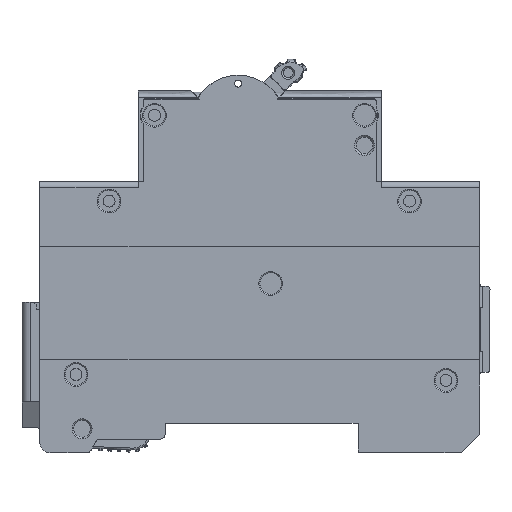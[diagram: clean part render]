
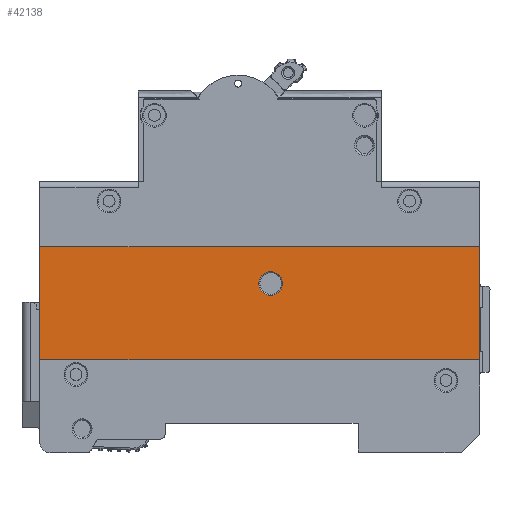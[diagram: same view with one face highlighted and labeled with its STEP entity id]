
A CAD part, left-side view. The second image highlights one B-rep face of the part: STEP entity #42138.
In plain terms, the highlighted planar face has unit normal (-1, 0, 0).
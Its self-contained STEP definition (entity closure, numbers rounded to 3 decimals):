
#1184 = EDGE_CURVE ( 'NONE', #67966, #63358, #28333, .T. ) ;
#2735 = ORIENTED_EDGE ( 'NONE', *, *, #35240, .T. ) ;
#7850 = LINE ( 'NONE', #12752, #33200 ) ;
#8147 = ORIENTED_EDGE ( 'NONE', *, *, #1184, .F. ) ;
#8216 = AXIS2_PLACEMENT_3D ( 'NONE', #57475, #27806, #10495 ) ;
#9171 = EDGE_CURVE ( 'NONE', #67966, #10151, #45954, .T. ) ;
#10151 = VERTEX_POINT ( 'NONE', #50501 ) ;
#10296 = DIRECTION ( 'NONE',  ( 0., 0., -1. ) ) ;
#10495 = DIRECTION ( 'NONE',  ( 0., 0., -1. ) ) ;
#11623 = VECTOR ( 'NONE', #68100, 1000. ) ;
#12752 = CARTESIAN_POINT ( 'NONE',  ( -0.8, 81.5, 10.92 ) ) ;
#13655 = AXIS2_PLACEMENT_3D ( 'NONE', #50691, #61941, #28120 ) ;
#19202 = VERTEX_POINT ( 'NONE', #43617 ) ;
#22573 = ORIENTED_EDGE ( 'NONE', *, *, #60540, .T. ) ;
#23667 = DIRECTION ( 'NONE',  ( 0., 0., -1. ) ) ;
#23730 = DIRECTION ( 'NONE',  ( 0., 1., 0. ) ) ;
#24483 = CARTESIAN_POINT ( 'NONE',  ( -0.8, 0.25, -12.005 ) ) ;
#27209 = DIRECTION ( 'NONE',  ( 0., 1., 0. ) ) ;
#27742 = PLANE ( 'NONE',  #13655 ) ;
#27806 = DIRECTION ( 'NONE',  ( 1., 0., 0. ) ) ;
#28120 = DIRECTION ( 'NONE',  ( 0., 0., 1. ) ) ;
#28333 = LINE ( 'NONE', #39635, #31565 ) ;
#29281 = AXIS2_PLACEMENT_3D ( 'NONE', #37060, #62151, #10296 ) ;
#29861 = CIRCLE ( 'NONE', #8216, 2.2 ) ;
#31565 = VECTOR ( 'NONE', #27209, 1000. ) ;
#33200 = VECTOR ( 'NONE', #23667, 1000. ) ;
#35240 = EDGE_CURVE ( 'NONE', #19202, #67490, #52078, .T. ) ;
#35412 = LINE ( 'NONE', #24483, #41043 ) ;
#37060 = CARTESIAN_POINT ( 'NONE',  ( -0.8, 38.723, -18.864 ) ) ;
#39060 = FACE_OUTER_BOUND ( 'NONE', #46760, .T. ) ;
#39635 = CARTESIAN_POINT ( 'NONE',  ( -0.8, 79.05, -33.005 ) ) ;
#41043 = VECTOR ( 'NONE', #23730, 1000. ) ;
#41139 = CARTESIAN_POINT ( 'NONE',  ( -0.8, 36.523, -18.864 ) ) ;
#42138 = ADVANCED_FACE ( 'NONE', ( #44679, #39060 ), #27742, .F. ) ;
#43617 = CARTESIAN_POINT ( 'NONE',  ( -0.8, 40.923, -18.864 ) ) ;
#44679 = FACE_BOUND ( 'NONE', #64229, .T. ) ;
#45209 = EDGE_CURVE ( 'NONE', #73608, #63358, #7850, .T. ) ;
#45954 = LINE ( 'NONE', #62851, #11623 ) ;
#46760 = EDGE_LOOP ( 'NONE', ( #54175, #8147, #52726, #73276 ) ) ;
#50501 = CARTESIAN_POINT ( 'NONE',  ( -0.8, 0., -12.005 ) ) ;
#50691 = CARTESIAN_POINT ( 'NONE',  ( -0.8, 69.75, -13.08 ) ) ;
#52078 = CIRCLE ( 'NONE', #29281, 2.2 ) ;
#52726 = ORIENTED_EDGE ( 'NONE', *, *, #9171, .T. ) ;
#54175 = ORIENTED_EDGE ( 'NONE', *, *, #45209, .T. ) ;
#57475 = CARTESIAN_POINT ( 'NONE',  ( -0.8, 38.723, -18.864 ) ) ;
#59780 = CARTESIAN_POINT ( 'NONE',  ( -0.8, 81.5, -12.005 ) ) ;
#60540 = EDGE_CURVE ( 'NONE', #67490, #19202, #29861, .T. ) ;
#61941 = DIRECTION ( 'NONE',  ( 1., 0., 0. ) ) ;
#62151 = DIRECTION ( 'NONE',  ( 1., 0., 0. ) ) ;
#62851 = CARTESIAN_POINT ( 'NONE',  ( -0.8, 0., 10.92 ) ) ;
#63358 = VERTEX_POINT ( 'NONE', #65975 ) ;
#64229 = EDGE_LOOP ( 'NONE', ( #22573, #2735 ) ) ;
#65975 = CARTESIAN_POINT ( 'NONE',  ( -0.8, 81.5, -33.005 ) ) ;
#66514 = CARTESIAN_POINT ( 'NONE',  ( -0.8, 0., -33.005 ) ) ;
#67490 = VERTEX_POINT ( 'NONE', #41139 ) ;
#67825 = EDGE_CURVE ( 'NONE', #10151, #73608, #35412, .T. ) ;
#67966 = VERTEX_POINT ( 'NONE', #66514 ) ;
#68100 = DIRECTION ( 'NONE',  ( 0., 0., 1. ) ) ;
#73276 = ORIENTED_EDGE ( 'NONE', *, *, #67825, .T. ) ;
#73608 = VERTEX_POINT ( 'NONE', #59780 ) ;
